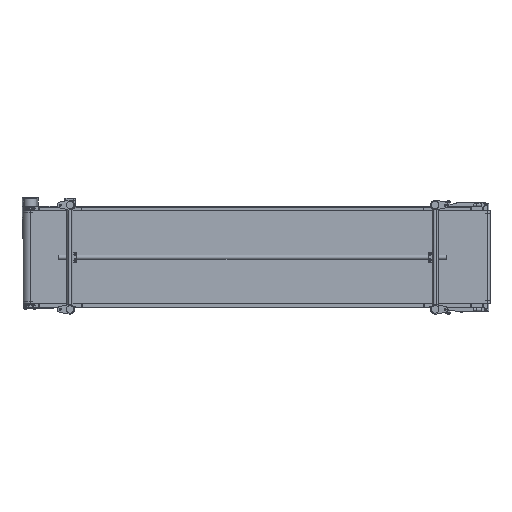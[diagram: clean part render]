
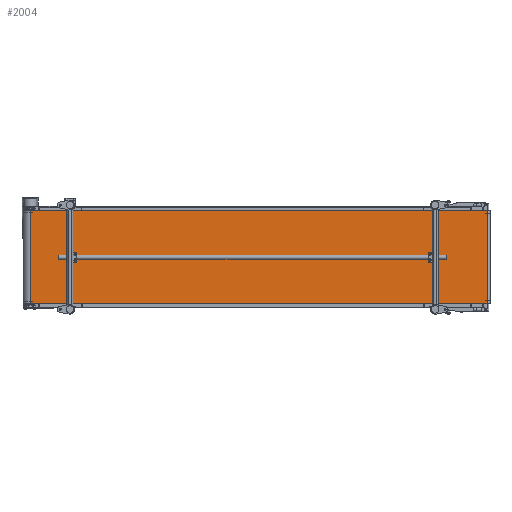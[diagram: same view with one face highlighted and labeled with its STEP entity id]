
A CAD part, front view. The second image highlights one B-rep face of the part: STEP entity #2004.
In plain terms, the highlighted planar face has unit normal (0.019, -1, 0).
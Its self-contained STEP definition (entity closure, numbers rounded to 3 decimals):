
#2004=ADVANCED_FACE('',(#8701),#8700,.F.);
#8700=PLANE('',#18387);
#8701=FACE_OUTER_BOUND('',#18388,.T.);
#18384=CARTESIAN_POINT('',(2994.477,-33.008,-310.));
#18385=DIRECTION('',(-0.019,1.,0.));
#18386=DIRECTION('',(-1.,-0.019,0.));
#18387=AXIS2_PLACEMENT_3D('',#18384,#18385,#18386);
#18388=EDGE_LOOP('',(#24960,#24961,#24962,#24963));
#24960=ORIENTED_EDGE('',*,*,#29426,.T.);
#24961=ORIENTED_EDGE('',*,*,#29437,.F.);
#24962=ORIENTED_EDGE('',*,*,#29416,.F.);
#24963=ORIENTED_EDGE('',*,*,#29438,.T.);
#29416=EDGE_CURVE('',#41137,#41144,#41145,.T.);
#29426=EDGE_CURVE('',#41193,#41207,#41214,.T.);
#29437=EDGE_CURVE('',#41144,#41207,#41287,.T.);
#29438=EDGE_CURVE('',#41137,#41193,#41293,.T.);
#41137=VERTEX_POINT('',#57670);
#41144=VERTEX_POINT('',#57675);
#41145=LINE('',#57676,#57677);
#41193=VERTEX_POINT('',#57706);
#41207=VERTEX_POINT('',#57715);
#41214=LINE('',#57720,#57721);
#41287=LINE('',#57762,#57763);
#41293=LINE('',#57765,#57766);
#57670=CARTESIAN_POINT('',(45.865,-88.742,300.));
#57675=CARTESIAN_POINT('',(2984.478,-33.197,300.));
#57676=CARTESIAN_POINT('',(45.865,-88.742,300.));
#57677=VECTOR('',#57678,2939.139);
#57678=DIRECTION('',(1.,0.019,0.));
#57706=CARTESIAN_POINT('',(45.865,-88.742,-300.));
#57715=CARTESIAN_POINT('',(2984.478,-33.197,-300.));
#57720=CARTESIAN_POINT('',(45.865,-88.742,-300.));
#57721=VECTOR('',#57722,2939.139);
#57722=DIRECTION('',(1.,0.019,0.));
#57762=CARTESIAN_POINT('',(2984.478,-33.197,300.));
#57763=VECTOR('',#57764,600.);
#57764=DIRECTION('',(0.,0.,-1.));
#57765=CARTESIAN_POINT('',(45.865,-88.742,300.));
#57766=VECTOR('',#57767,600.);
#57767=DIRECTION('',(0.,0.,-1.));
